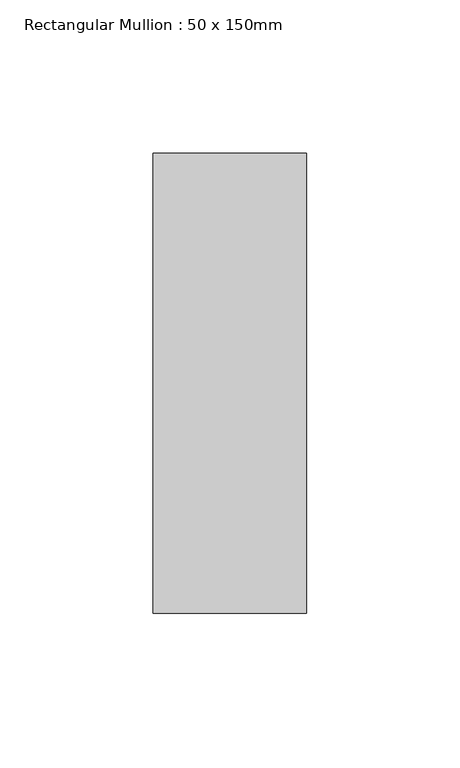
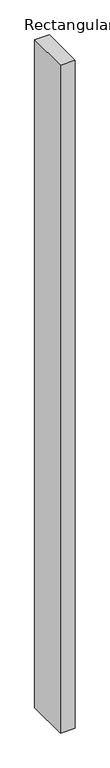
"""IFC4 building model written with IfcOpenShell, lengths in millimetres: member geometry, Rectangular Mullion : 50 x 150mm."""

from ifc_helpers import new_model, si_unit, frame, origin, place, context, project, spatial, polyline, outline, extrude, source, transform, mapped, element, save


def rectangular_mullion_50_x_150mm_60b7ab08(model_context):
    return source(origin(), model_context, "Body", "SweptSolid", [
        extrude(outline(polyline([(25.0, 75.0), (25.0, -75.0), (-25.0, -75.0), (-25.0, 75.0), (25.0, 75.0)])), frame((0.0, 0.0, -2380.5532991), z_axis=(0.0, 0.0, 1.0), x_axis=(1.0, 0.0, 0.0)), (0.0, 0.0, 1.0), 2380.5532991),
    ])


if __name__ == "__main__":
    model = new_model("IFC4")
    model_context = context("Model", 3, world=origin())
    ifc_project = project(units=[si_unit("LENGTHUNIT", "METRE", prefix="MILLI")], contexts=[model_context])
    site = spatial("IfcSite", under=ifc_project)
    building = spatial("IfcBuilding", under=site)
    placement = place(None, origin())
    rectangular_mullion_50_x_150mm_shape = rectangular_mullion_50_x_150mm_60b7ab08(model_context)
    element("IfcMember", 1, ObjectType="Rectangular Mullion : 50 x 150mm", at=placement, inside=building, context=model_context, shape_type="MappedRepresentation", body=[
        mapped(rectangular_mullion_50_x_150mm_shape, transform((0.0, 0.0, 0.0), x_axis=(1.0, 0.0, 0.0), y_axis=(0.0, 1.0, 0.0), z_axis=(0.0, 0.0, 1.0))),
    ])
    save(model, "model.ifc")
